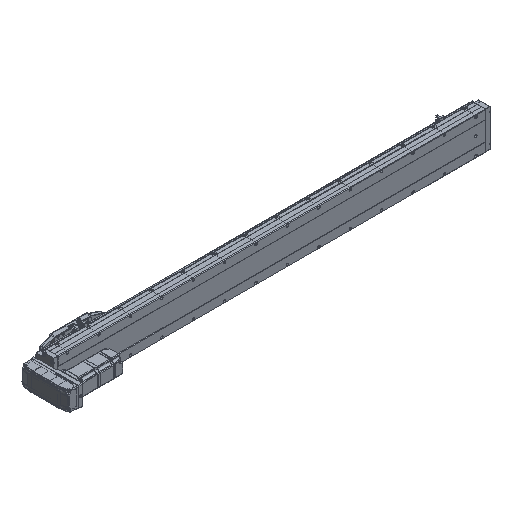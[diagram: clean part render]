
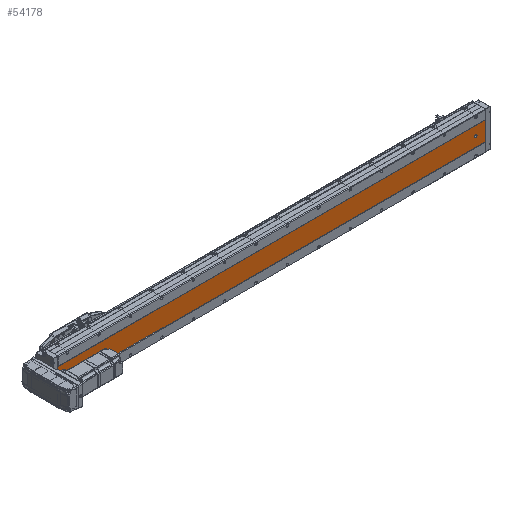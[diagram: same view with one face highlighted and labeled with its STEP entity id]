
A CAD part, isometric view. The second image highlights one B-rep face of the part: STEP entity #54178.
In plain terms, the highlighted planar face has unit normal (0, -1, 0).
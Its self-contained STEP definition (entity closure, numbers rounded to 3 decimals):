
#273 = VERTEX_POINT ( 'NONE', #12716 ) ;
#495 = VECTOR ( 'NONE', #6581, 1000. ) ;
#1840 = VERTEX_POINT ( 'NONE', #16900 ) ;
#3050 = CARTESIAN_POINT ( 'NONE',  ( -36.392, -52.848, 30. ) ) ;
#4848 = EDGE_CURVE ( 'NONE', #24153, #48390, #24528, .T. ) ;
#5120 = EDGE_CURVE ( 'NONE', #273, #31426, #19348, .T. ) ;
#6502 = DIRECTION ( 'NONE',  ( 0., 0., 1. ) ) ;
#6581 = DIRECTION ( 'NONE',  ( 0., 0., -1. ) ) ;
#6832 = VERTEX_POINT ( 'NONE', #34464 ) ;
#8120 = DIRECTION ( 'NONE',  ( 0., 0., 1. ) ) ;
#9004 = ORIENTED_EDGE ( 'NONE', *, *, #11401, .T. ) ;
#9351 = ORIENTED_EDGE ( 'NONE', *, *, #76074, .T. ) ;
#9451 = CARTESIAN_POINT ( 'NONE',  ( -43.392, -52.848, 30. ) ) ;
#11401 = EDGE_CURVE ( 'NONE', #31426, #37786, #32429, .T. ) ;
#12149 = EDGE_CURVE ( 'NONE', #6832, #33843, #76724, .T. ) ;
#12626 = DIRECTION ( 'NONE',  ( 0., 0., 1. ) ) ;
#12716 = CARTESIAN_POINT ( 'NONE',  ( -43.392, -52.848, 32. ) ) ;
#13345 = EDGE_LOOP ( 'NONE', ( #66267, #51015, #78459, #60131 ) ) ;
#14320 = CARTESIAN_POINT ( 'NONE',  ( -43.392, -52.848, 1361. ) ) ;
#14818 = VECTOR ( 'NONE', #16471, 1000. ) ;
#15827 = EDGE_LOOP ( 'NONE', ( #20502, #9004, #9351, #32654, #77318 ) ) ;
#16128 = CARTESIAN_POINT ( 'NONE',  ( -69.892, -52.848, 1361. ) ) ;
#16471 = DIRECTION ( 'NONE',  ( 0., 0., -1. ) ) ;
#16829 = LINE ( 'NONE', #14320, #56122 ) ;
#16900 = CARTESIAN_POINT ( 'NONE',  ( -69.892, -52.848, 0. ) ) ;
#16912 = CARTESIAN_POINT ( 'NONE',  ( -9.892, -52.848, 0. ) ) ;
#17302 = DIRECTION ( 'NONE',  ( 0., 0., 1. ) ) ;
#17953 = VECTOR ( 'NONE', #19735, 1000. ) ;
#19348 = CIRCLE ( 'NONE', #56206, 3.5 ) ;
#19735 = DIRECTION ( 'NONE',  ( 1., 0., 0. ) ) ;
#20502 = ORIENTED_EDGE ( 'NONE', *, *, #5120, .T. ) ;
#22587 = VECTOR ( 'NONE', #22795, 1000. ) ;
#22795 = DIRECTION ( 'NONE',  ( 1., 0., 0. ) ) ;
#23745 = DIRECTION ( 'NONE',  ( 0., 0., 1. ) ) ;
#23938 = CIRCLE ( 'NONE', #57828, 3.5 ) ;
#24153 = VERTEX_POINT ( 'NONE', #78432 ) ;
#24528 = CIRCLE ( 'NONE', #64442, 3.5 ) ;
#25103 = VECTOR ( 'NONE', #81324, 1000. ) ;
#26850 = CARTESIAN_POINT ( 'NONE',  ( -9.892, -52.848, 1361. ) ) ;
#27038 = CARTESIAN_POINT ( 'NONE',  ( -39.892, -52.848, 1334.5 ) ) ;
#27182 = LINE ( 'NONE', #35128, #25103 ) ;
#27433 = ORIENTED_EDGE ( 'NONE', *, *, #80749, .T. ) ;
#29427 = LINE ( 'NONE', #26850, #495 ) ;
#29529 = DIRECTION ( 'NONE',  ( 0., 1., 0. ) ) ;
#30484 = ORIENTED_EDGE ( 'NONE', *, *, #12149, .T. ) ;
#31426 = VERTEX_POINT ( 'NONE', #33235 ) ;
#31764 = DIRECTION ( 'NONE',  ( 0., 1., 0. ) ) ;
#31855 = FACE_BOUND ( 'NONE', #58237, .T. ) ;
#32429 = LINE ( 'NONE', #37253, #14818 ) ;
#32486 = LINE ( 'NONE', #46567, #17953 ) ;
#32654 = ORIENTED_EDGE ( 'NONE', *, *, #40788, .T. ) ;
#33235 = CARTESIAN_POINT ( 'NONE',  ( -36.392, -52.848, 32. ) ) ;
#33821 = AXIS2_PLACEMENT_3D ( 'NONE', #65798, #38659, #12626 ) ;
#33843 = VERTEX_POINT ( 'NONE', #60755 ) ;
#34464 = CARTESIAN_POINT ( 'NONE',  ( -39.892, -52.848, 1227.5 ) ) ;
#34543 = CARTESIAN_POINT ( 'NONE',  ( -39.892, -52.848, 30. ) ) ;
#35128 = CARTESIAN_POINT ( 'NONE',  ( -69.892, -52.848, 1361. ) ) ;
#35883 = VERTEX_POINT ( 'NONE', #40886 ) ;
#37128 = DIRECTION ( 'NONE',  ( 0., 1., 0. ) ) ;
#37253 = CARTESIAN_POINT ( 'NONE',  ( -36.392, -52.848, 1361. ) ) ;
#37396 = DIRECTION ( 'NONE',  ( 0., 0., 1. ) ) ;
#37786 = VERTEX_POINT ( 'NONE', #3050 ) ;
#38659 = DIRECTION ( 'NONE',  ( 0., 1., 0. ) ) ;
#39512 = AXIS2_PLACEMENT_3D ( 'NONE', #34543, #74386, #73817 ) ;
#40622 = DIRECTION ( 'NONE',  ( 0., 0., 1. ) ) ;
#40788 = EDGE_CURVE ( 'NONE', #62001, #61850, #75751, .T. ) ;
#40886 = CARTESIAN_POINT ( 'NONE',  ( -9.892, -52.848, 1361. ) ) ;
#42348 = VERTEX_POINT ( 'NONE', #62547 ) ;
#42509 = VERTEX_POINT ( 'NONE', #16912 ) ;
#43479 = EDGE_CURVE ( 'NONE', #42348, #35883, #79429, .T. ) ;
#44085 = CARTESIAN_POINT ( 'NONE',  ( -39.892, -52.848, 26.5 ) ) ;
#44368 = ORIENTED_EDGE ( 'NONE', *, *, #4848, .T. ) ;
#44688 = EDGE_LOOP ( 'NONE', ( #44368, #85451 ) ) ;
#46089 = CARTESIAN_POINT ( 'NONE',  ( -39.892, -52.848, 1231. ) ) ;
#46567 = CARTESIAN_POINT ( 'NONE',  ( -69.892, -52.848, 0. ) ) ;
#48325 = DIRECTION ( 'NONE',  ( 0., 1., 0. ) ) ;
#48390 = VERTEX_POINT ( 'NONE', #27038 ) ;
#48412 = AXIS2_PLACEMENT_3D ( 'NONE', #46089, #79872, #6502 ) ;
#51015 = ORIENTED_EDGE ( 'NONE', *, *, #79230, .F. ) ;
#53574 = FACE_OUTER_BOUND ( 'NONE', #13345, .T. ) ;
#54178 = ADVANCED_FACE ( 'NONE', ( #63889, #31855, #83510, #53574 ), #77457, .F. ) ;
#56122 = VECTOR ( 'NONE', #40622, 1000. ) ;
#56206 = AXIS2_PLACEMENT_3D ( 'NONE', #57443, #31764, #17302 ) ;
#56364 = CARTESIAN_POINT ( 'NONE',  ( -39.892, -52.848, 1231. ) ) ;
#57443 = CARTESIAN_POINT ( 'NONE',  ( -39.892, -52.848, 32. ) ) ;
#57828 = AXIS2_PLACEMENT_3D ( 'NONE', #56364, #29529, #23745 ) ;
#58237 = EDGE_LOOP ( 'NONE', ( #30484, #27433 ) ) ;
#59858 = EDGE_CURVE ( 'NONE', #61850, #273, #16829, .T. ) ;
#60131 = ORIENTED_EDGE ( 'NONE', *, *, #64193, .T. ) ;
#60755 = CARTESIAN_POINT ( 'NONE',  ( -39.892, -52.848, 1234.5 ) ) ;
#61850 = VERTEX_POINT ( 'NONE', #9451 ) ;
#62001 = VERTEX_POINT ( 'NONE', #44085 ) ;
#62547 = CARTESIAN_POINT ( 'NONE',  ( -69.892, -52.848, 1361. ) ) ;
#62887 = EDGE_CURVE ( 'NONE', #1840, #42509, #32486, .T. ) ;
#63321 = DIRECTION ( 'NONE',  ( 0., 0., 1. ) ) ;
#63415 = CARTESIAN_POINT ( 'NONE',  ( -39.892, -52.848, 1331. ) ) ;
#63889 = FACE_BOUND ( 'NONE', #15827, .T. ) ;
#64193 = EDGE_CURVE ( 'NONE', #42348, #1840, #27182, .T. ) ;
#64442 = AXIS2_PLACEMENT_3D ( 'NONE', #74836, #48325, #8120 ) ;
#64474 = DIRECTION ( 'NONE',  ( 0., 1., 0. ) ) ;
#65798 = CARTESIAN_POINT ( 'NONE',  ( -39.892, -52.848, 30. ) ) ;
#65950 = EDGE_CURVE ( 'NONE', #48390, #24153, #66964, .T. ) ;
#65996 = CIRCLE ( 'NONE', #33821, 3.5 ) ;
#66267 = ORIENTED_EDGE ( 'NONE', *, *, #62887, .T. ) ;
#66964 = CIRCLE ( 'NONE', #83563, 3.5 ) ;
#68409 = AXIS2_PLACEMENT_3D ( 'NONE', #70540, #64474, #63321 ) ;
#70540 = CARTESIAN_POINT ( 'NONE',  ( -69.892, -52.848, 1361. ) ) ;
#73817 = DIRECTION ( 'NONE',  ( 0., 0., 1. ) ) ;
#74386 = DIRECTION ( 'NONE',  ( 0., 1., 0. ) ) ;
#74836 = CARTESIAN_POINT ( 'NONE',  ( -39.892, -52.848, 1331. ) ) ;
#75751 = CIRCLE ( 'NONE', #39512, 3.5 ) ;
#76074 = EDGE_CURVE ( 'NONE', #37786, #62001, #65996, .T. ) ;
#76724 = CIRCLE ( 'NONE', #48412, 3.5 ) ;
#77318 = ORIENTED_EDGE ( 'NONE', *, *, #59858, .T. ) ;
#77457 = PLANE ( 'NONE',  #68409 ) ;
#78432 = CARTESIAN_POINT ( 'NONE',  ( -39.892, -52.848, 1327.5 ) ) ;
#78459 = ORIENTED_EDGE ( 'NONE', *, *, #43479, .F. ) ;
#79230 = EDGE_CURVE ( 'NONE', #35883, #42509, #29427, .T. ) ;
#79429 = LINE ( 'NONE', #16128, #22587 ) ;
#79872 = DIRECTION ( 'NONE',  ( 0., 1., 0. ) ) ;
#80749 = EDGE_CURVE ( 'NONE', #33843, #6832, #23938, .T. ) ;
#81324 = DIRECTION ( 'NONE',  ( 0., 0., -1. ) ) ;
#83510 = FACE_BOUND ( 'NONE', #44688, .T. ) ;
#83563 = AXIS2_PLACEMENT_3D ( 'NONE', #63415, #37128, #37396 ) ;
#85451 = ORIENTED_EDGE ( 'NONE', *, *, #65950, .T. ) ;
